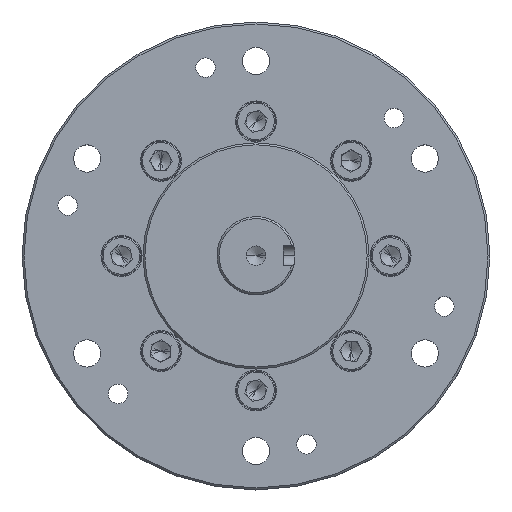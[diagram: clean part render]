
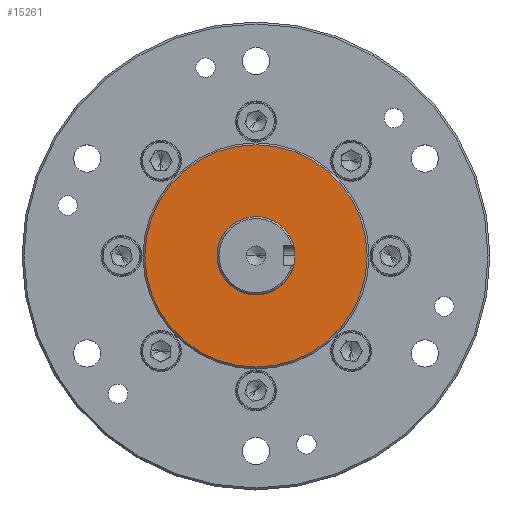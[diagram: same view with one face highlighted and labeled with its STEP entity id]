
A CAD part, top view. The second image highlights one B-rep face of the part: STEP entity #15261.
In plain terms, the highlighted planar face has unit normal (0, 0, 1).
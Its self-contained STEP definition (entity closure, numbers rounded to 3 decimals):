
#103 = FACE_BOUND ( 'NONE', #10629, .T. ) ;
#395 = EDGE_LOOP ( 'NONE', ( #11729, #1053 ) ) ;
#900 = CARTESIAN_POINT ( 'NONE',  ( 0., 0., 15. ) ) ;
#1053 = ORIENTED_EDGE ( 'NONE', *, *, #11572, .T. ) ;
#1527 = CARTESIAN_POINT ( 'NONE',  ( 0., 0., 15. ) ) ;
#1609 = AXIS2_PLACEMENT_3D ( 'NONE', #900, #2067, #9518 ) ;
#1925 = DIRECTION ( 'NONE',  ( 0., 0., 1. ) ) ;
#2067 = DIRECTION ( 'NONE',  ( 0., 0., 1. ) ) ;
#2699 = CIRCLE ( 'NONE', #2936, 10. ) ;
#2762 = DIRECTION ( 'NONE',  ( 0., 0., 1. ) ) ;
#2936 = AXIS2_PLACEMENT_3D ( 'NONE', #13475, #3624, #7268 ) ;
#3093 = DIRECTION ( 'NONE',  ( 1., 0., 0. ) ) ;
#3266 = PLANE ( 'NONE',  #9886 ) ;
#3576 = EDGE_CURVE ( 'NONE', #4453, #6587, #8742, .T. ) ;
#3624 = DIRECTION ( 'NONE',  ( 0., 0., 1. ) ) ;
#3892 = EDGE_CURVE ( 'NONE', #14293, #12248, #11851, .T. ) ;
#4453 = VERTEX_POINT ( 'NONE', #13416 ) ;
#4455 = CARTESIAN_POINT ( 'NONE',  ( 0., 0., 15. ) ) ;
#4616 = CARTESIAN_POINT ( 'NONE',  ( 10., 0., 15. ) ) ;
#6036 = CARTESIAN_POINT ( 'NONE',  ( 28.5, 0., 15. ) ) ;
#6587 = VERTEX_POINT ( 'NONE', #4616 ) ;
#7268 = DIRECTION ( 'NONE',  ( 1., 0., 0. ) ) ;
#7689 = ORIENTED_EDGE ( 'NONE', *, *, #3576, .F. ) ;
#7747 = DIRECTION ( 'NONE',  ( 1., 0., 0. ) ) ;
#8159 = CARTESIAN_POINT ( 'NONE',  ( -28.5, 0., 15. ) ) ;
#8256 = DIRECTION ( 'NONE',  ( 1., 0., 0. ) ) ;
#8742 = CIRCLE ( 'NONE', #12880, 10. ) ;
#9518 = DIRECTION ( 'NONE',  ( 1., 0., 0. ) ) ;
#9886 = AXIS2_PLACEMENT_3D ( 'NONE', #11936, #14396, #8256 ) ;
#10590 = EDGE_CURVE ( 'NONE', #6587, #4453, #2699, .T. ) ;
#10629 = EDGE_LOOP ( 'NONE', ( #12748, #7689 ) ) ;
#11572 = EDGE_CURVE ( 'NONE', #12248, #14293, #13890, .T. ) ;
#11729 = ORIENTED_EDGE ( 'NONE', *, *, #3892, .T. ) ;
#11851 = CIRCLE ( 'NONE', #14006, 28.5 ) ;
#11936 = CARTESIAN_POINT ( 'NONE',  ( 0., 0., 15. ) ) ;
#12248 = VERTEX_POINT ( 'NONE', #6036 ) ;
#12270 = FACE_OUTER_BOUND ( 'NONE', #395, .T. ) ;
#12748 = ORIENTED_EDGE ( 'NONE', *, *, #10590, .F. ) ;
#12880 = AXIS2_PLACEMENT_3D ( 'NONE', #4455, #1925, #3093 ) ;
#13416 = CARTESIAN_POINT ( 'NONE',  ( -10., 0., 15. ) ) ;
#13475 = CARTESIAN_POINT ( 'NONE',  ( 0., 0., 15. ) ) ;
#13890 = CIRCLE ( 'NONE', #1609, 28.5 ) ;
#14006 = AXIS2_PLACEMENT_3D ( 'NONE', #1527, #2762, #7747 ) ;
#14293 = VERTEX_POINT ( 'NONE', #8159 ) ;
#14396 = DIRECTION ( 'NONE',  ( 0., 0., 1. ) ) ;
#15261 = ADVANCED_FACE ( 'NONE', ( #12270, #103 ), #3266, .T. ) ;
